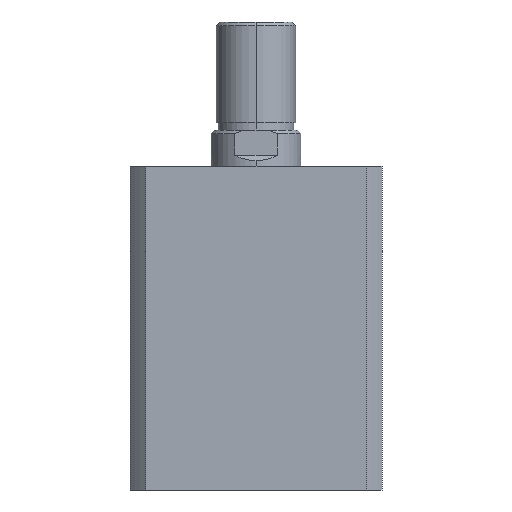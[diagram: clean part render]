
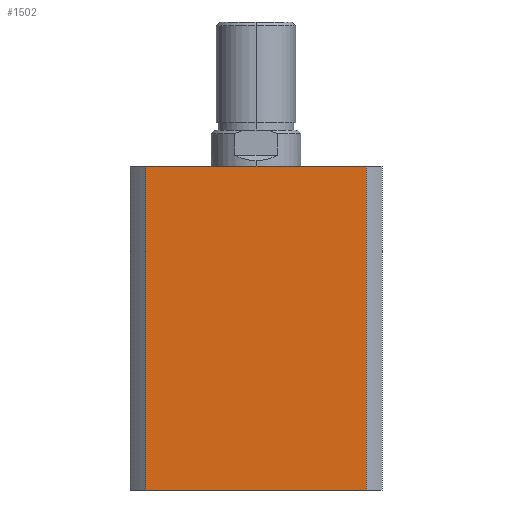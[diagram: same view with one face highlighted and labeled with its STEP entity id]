
A CAD part, left-side view. The second image highlights one B-rep face of the part: STEP entity #1502.
In plain terms, the highlighted planar face has unit normal (-1, 0, 0).
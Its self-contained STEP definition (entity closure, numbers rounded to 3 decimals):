
#71 = DIRECTION ( 'NONE',  ( 0., -1., 0. ) ) ;
#81 = CARTESIAN_POINT ( 'NONE',  ( -35., 0., 90. ) ) ;
#137 = DIRECTION ( 'NONE',  ( 0., 0., -1. ) ) ;
#147 = CARTESIAN_POINT ( 'NONE',  ( -35., 30.615, 90. ) ) ;
#159 = CARTESIAN_POINT ( 'NONE',  ( -35., 30.615, 90. ) ) ;
#189 = DIRECTION ( 'NONE',  ( 0., 0., -1. ) ) ;
#198 = CARTESIAN_POINT ( 'NONE',  ( -35., -30.615, 90. ) ) ;
#257 = EDGE_CURVE ( 'NONE', #1621, #1665, #1717, .T. ) ;
#289 = EDGE_CURVE ( 'NONE', #547, #1621, #3737, .T. ) ;
#291 = EDGE_CURVE ( 'NONE', #1579, #1665, #3733, .T. ) ;
#292 = EDGE_CURVE ( 'NONE', #547, #1579, #3732, .T. ) ;
#547 = VERTEX_POINT ( 'NONE', #159 ) ;
#800 = CARTESIAN_POINT ( 'NONE',  ( -35., -30.615, 90. ) ) ;
#833 = CARTESIAN_POINT ( 'NONE',  ( -35., 30.615, 0. ) ) ;
#877 = CARTESIAN_POINT ( 'NONE',  ( -35., -30.615, 0. ) ) ;
#1502 = ADVANCED_FACE ( 'NONE', ( #3551 ), #1971, .F. ) ;
#1579 = VERTEX_POINT ( 'NONE', #800 ) ;
#1621 = VERTEX_POINT ( 'NONE', #833 ) ;
#1665 = VERTEX_POINT ( 'NONE', #877 ) ;
#1712 = VECTOR ( 'NONE', #4015, 1000. ) ;
#1717 = LINE ( 'NONE', #4006, #1712 ) ;
#1796 = EDGE_LOOP ( 'NONE', ( #4953, #4952, #4951, #4954 ) ) ;
#1965 = DIRECTION ( 'NONE',  ( 0., 1., 0. ) ) ;
#1966 = DIRECTION ( 'NONE',  ( 1., 0., 0. ) ) ;
#1971 = PLANE ( 'NONE',  #3491 ) ;
#1973 = CARTESIAN_POINT ( 'NONE',  ( -35., 0., 90. ) ) ;
#3491 = AXIS2_PLACEMENT_3D ( 'NONE', #1973, #1966, #1965 ) ;
#3551 = FACE_OUTER_BOUND ( 'NONE', #1796, .T. ) ;
#3729 = VECTOR ( 'NONE', #71, 1000. ) ;
#3731 = VECTOR ( 'NONE', #189, 1000. ) ;
#3732 = LINE ( 'NONE', #81, #3729 ) ;
#3733 = LINE ( 'NONE', #198, #3731 ) ;
#3734 = VECTOR ( 'NONE', #137, 1000. ) ;
#3737 = LINE ( 'NONE', #147, #3734 ) ;
#4006 = CARTESIAN_POINT ( 'NONE',  ( -35., 0., 0. ) ) ;
#4015 = DIRECTION ( 'NONE',  ( 0., -1., 0. ) ) ;
#4951 = ORIENTED_EDGE ( 'NONE', *, *, #292, .F. ) ;
#4952 = ORIENTED_EDGE ( 'NONE', *, *, #291, .F. ) ;
#4953 = ORIENTED_EDGE ( 'NONE', *, *, #257, .T. ) ;
#4954 = ORIENTED_EDGE ( 'NONE', *, *, #289, .T. ) ;
